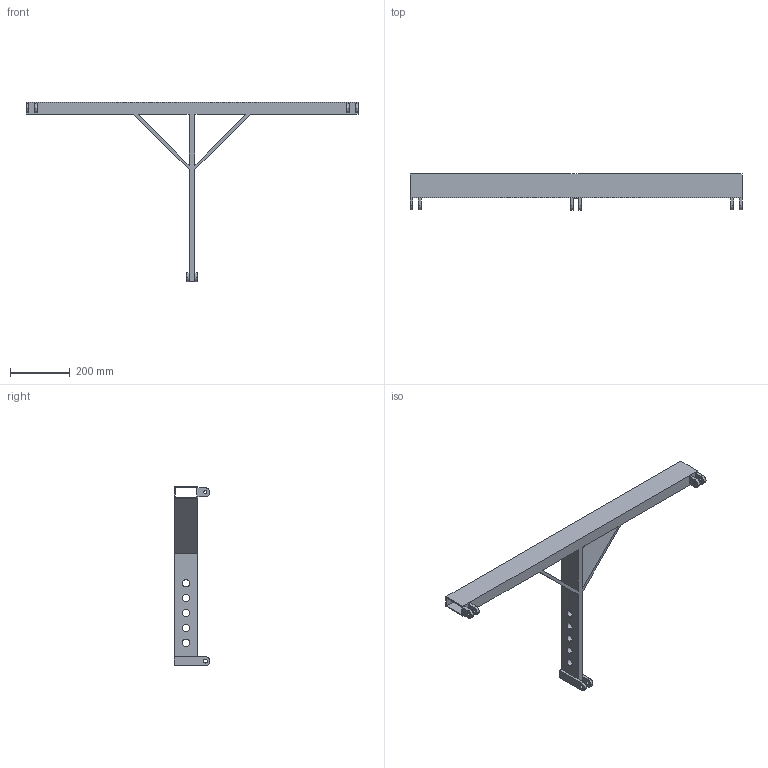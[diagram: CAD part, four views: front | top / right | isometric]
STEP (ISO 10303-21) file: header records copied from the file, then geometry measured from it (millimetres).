
FILE_DESCRIPTION (( 'STEP AP203' ), '1' );
FILE_NAME ('Seeburg_GaleoXT-Cradle.STEP', '2012-10-17T09:12:55', ( 'Fabian' ), ( '' ), 'SwSTEP 2.0', 'SolidWorks 2009', '' );
FILE_SCHEMA (( 'CONFIG_CONTROL_DESIGN' ));
Length unit declared in the file: millimetre
Products named in the file (2): Cradle_GALEO-XT; Seeburg_GaleoXT-Cradle
Assembly tree (1 placements, depth 2):
  Seeburg_GaleoXT-Cradle
    Cradle_GALEO-XT
Bounding box: 1114 x 120 x 601.5 mm (x, y, z)
Volume: 2358355.3 mm3; surface area: 724761.2 mm2
Topology: 1 solids, 1 shells, 76 faces, 214 edges, 142 vertices
Faces by surface type: plane 42, cylinder 34
Entity records: 2722 total; most frequent: DIRECTION 442, CARTESIAN_POINT 436, ORIENTED_EDGE 428, EDGE_CURVE 214, AXIS2_PLACEMENT_3D 148, VECTOR 146, LINE 146, VERTEX_POINT 142
